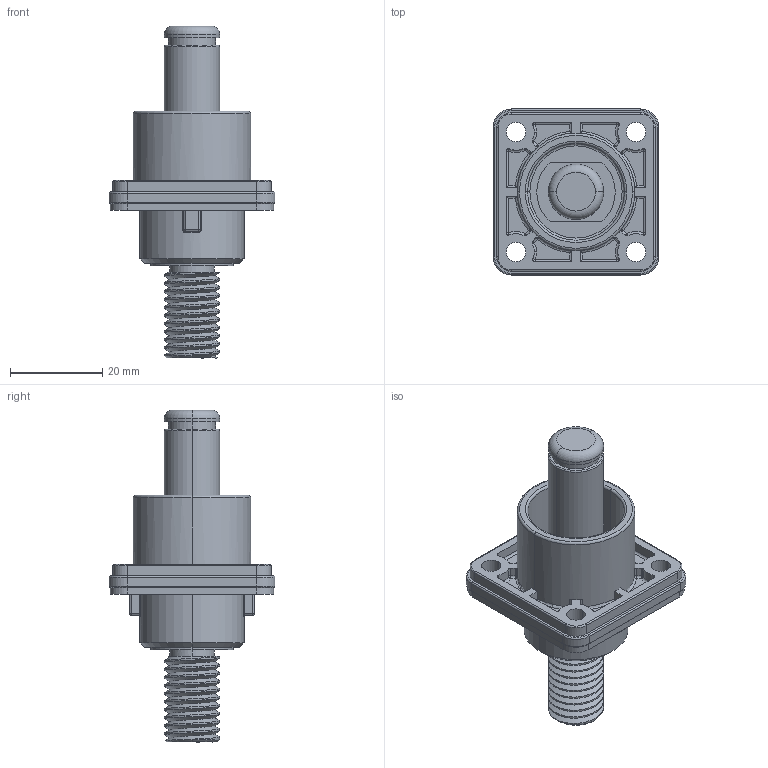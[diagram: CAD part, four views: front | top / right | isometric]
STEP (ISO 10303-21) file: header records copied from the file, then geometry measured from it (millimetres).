
FILE_DESCRIPTION (( 'STEP AP214' ), '1' );
FILE_NAME ('RL9120-10X-F1 M12.STEP', '2017-01-12T01:05:05', ( '' ), ( '' ), 'SwSTEP 2.0', 'SolidWorks 2014', '' );
FILE_SCHEMA (( 'AUTOMOTIVE_DESIGN' ));
Length unit declared in the file: millimetre
Products named in the file (1): RL9120-10X-F1 M12
Bounding box: 36 x 36 x 72 mm (x, y, z)
Volume: 19903.2 mm3; surface area: 9578.2 mm2
Topology: 1 solids, 1 shells, 319 faces, 771 edges, 448 vertices
Faces by surface type: cylinder 159, plane 73, torus 42, sphere 34, bspline 6, cone 5
Entity records: 11499 total; most frequent: CARTESIAN_POINT 3382, DIRECTION 1653, ORIENTED_EDGE 1478, EDGE_CURVE 739, AXIS2_PLACEMENT_3D 673, VERTEX_POINT 436, CIRCLE 359, EDGE_LOOP 341
